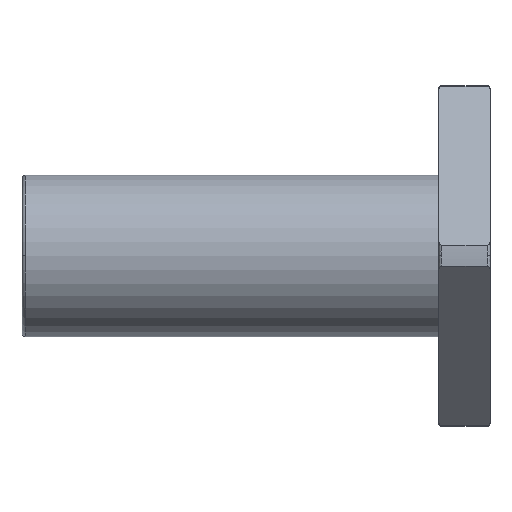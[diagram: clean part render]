
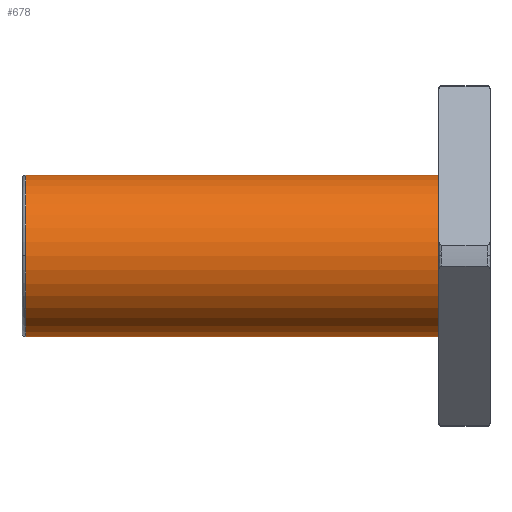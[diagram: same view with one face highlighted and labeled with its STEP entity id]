
A CAD part, top view. The second image highlights one B-rep face of the part: STEP entity #678.
In plain terms, the highlighted cylindrical face has radius 9.5 mm (diameter 19 mm), a partial arc.
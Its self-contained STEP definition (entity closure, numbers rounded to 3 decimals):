
#663 = PLANE('',#664);
#664 = AXIS2_PLACEMENT_3D('',#665,#666,#667);
#665 = CARTESIAN_POINT('',(-6.,14.6,0.));
#666 = DIRECTION('',(-1.,0.,0.));
#667 = DIRECTION('',(0.,-1.,0.));
#678 = ADVANCED_FACE('',(#679),#693,.T.);
#679 = FACE_BOUND('',#680,.T.);
#680 = EDGE_LOOP('',(#681,#716,#745,#774,#797));
#681 = ORIENTED_EDGE('',*,*,#682,.F.);
#682 = EDGE_CURVE('',#683,#685,#687,.T.);
#683 = VERTEX_POINT('',#684);
#684 = CARTESIAN_POINT('',(-54.55,9.5,0.));
#685 = VERTEX_POINT('',#686);
#686 = CARTESIAN_POINT('',(-6.,9.5,0.));
#687 = SURFACE_CURVE('',#688,(#692,#704),.PCURVE_S1.);
#688 = LINE('',#689,#690);
#689 = CARTESIAN_POINT('',(-30.275,9.5,0.));
#690 = VECTOR('',#691,1.);
#691 = DIRECTION('',(1.,0.,0.));
#692 = PCURVE('',#693,#698);
#693 = CYLINDRICAL_SURFACE('',#694,9.5);
#694 = AXIS2_PLACEMENT_3D('',#695,#696,#697);
#695 = CARTESIAN_POINT('',(-30.275,0.,0.));
#696 = DIRECTION('',(1.,0.,0.));
#697 = DIRECTION('',(-0.,1.,0.));
#698 = DEFINITIONAL_REPRESENTATION('',(#699),#703);
#699 = LINE('',#700,#701);
#700 = CARTESIAN_POINT('',(0.,0.));
#701 = VECTOR('',#702,1.);
#702 = DIRECTION('',(0.,1.));
#703 = ( GEOMETRIC_REPRESENTATION_CONTEXT(2) 
PARAMETRIC_REPRESENTATION_CONTEXT() REPRESENTATION_CONTEXT('2D SPACE',''
  ) );
#704 = PCURVE('',#705,#710);
#705 = CYLINDRICAL_SURFACE('',#706,9.5);
#706 = AXIS2_PLACEMENT_3D('',#707,#708,#709);
#707 = CARTESIAN_POINT('',(-30.275,0.,0.));
#708 = DIRECTION('',(1.,0.,0.));
#709 = DIRECTION('',(-0.,1.,0.));
#710 = DEFINITIONAL_REPRESENTATION('',(#711),#715);
#711 = LINE('',#712,#713);
#712 = CARTESIAN_POINT('',(6.283,0.));
#713 = VECTOR('',#714,1.);
#714 = DIRECTION('',(0.,1.));
#715 = ( GEOMETRIC_REPRESENTATION_CONTEXT(2) 
PARAMETRIC_REPRESENTATION_CONTEXT() REPRESENTATION_CONTEXT('2D SPACE',''
  ) );
#716 = ORIENTED_EDGE('',*,*,#717,.T.);
#717 = EDGE_CURVE('',#683,#718,#720,.T.);
#718 = VERTEX_POINT('',#719);
#719 = CARTESIAN_POINT('',(-54.55,0.,9.5));
#720 = SURFACE_CURVE('',#721,(#726,#733),.PCURVE_S1.);
#721 = CIRCLE('',#722,9.5);
#722 = AXIS2_PLACEMENT_3D('',#723,#724,#725);
#723 = CARTESIAN_POINT('',(-54.55,0.,0.));
#724 = DIRECTION('',(1.,0.,0.));
#725 = DIRECTION('',(-0.,1.,0.));
#726 = PCURVE('',#693,#727);
#727 = DEFINITIONAL_REPRESENTATION('',(#728),#732);
#728 = LINE('',#729,#730);
#729 = CARTESIAN_POINT('',(0.,-24.275));
#730 = VECTOR('',#731,1.);
#731 = DIRECTION('',(1.,0.));
#732 = ( GEOMETRIC_REPRESENTATION_CONTEXT(2) 
PARAMETRIC_REPRESENTATION_CONTEXT() REPRESENTATION_CONTEXT('2D SPACE',''
  ) );
#733 = PCURVE('',#734,#739);
#734 = TOROIDAL_SURFACE('',#735,9.05,0.45);
#735 = AXIS2_PLACEMENT_3D('',#736,#737,#738);
#736 = CARTESIAN_POINT('',(-54.55,0.,0.));
#737 = DIRECTION('',(1.,0.,0.));
#738 = DIRECTION('',(0.,0.,-1.));
#739 = DEFINITIONAL_REPRESENTATION('',(#740),#744);
#740 = LINE('',#741,#742);
#741 = CARTESIAN_POINT('',(1.571,6.283));
#742 = VECTOR('',#743,1.);
#743 = DIRECTION('',(1.,0.));
#744 = ( GEOMETRIC_REPRESENTATION_CONTEXT(2) 
PARAMETRIC_REPRESENTATION_CONTEXT() REPRESENTATION_CONTEXT('2D SPACE',''
  ) );
#745 = ORIENTED_EDGE('',*,*,#746,.T.);
#746 = EDGE_CURVE('',#718,#747,#749,.T.);
#747 = VERTEX_POINT('',#748);
#748 = CARTESIAN_POINT('',(-54.55,-9.5,0.));
#749 = SURFACE_CURVE('',#750,(#755,#762),.PCURVE_S1.);
#750 = CIRCLE('',#751,9.5);
#751 = AXIS2_PLACEMENT_3D('',#752,#753,#754);
#752 = CARTESIAN_POINT('',(-54.55,0.,0.));
#753 = DIRECTION('',(1.,0.,0.));
#754 = DIRECTION('',(-0.,1.,0.));
#755 = PCURVE('',#693,#756);
#756 = DEFINITIONAL_REPRESENTATION('',(#757),#761);
#757 = LINE('',#758,#759);
#758 = CARTESIAN_POINT('',(0.,-24.275));
#759 = VECTOR('',#760,1.);
#760 = DIRECTION('',(1.,0.));
#761 = ( GEOMETRIC_REPRESENTATION_CONTEXT(2) 
PARAMETRIC_REPRESENTATION_CONTEXT() REPRESENTATION_CONTEXT('2D SPACE',''
  ) );
#762 = PCURVE('',#763,#768);
#763 = TOROIDAL_SURFACE('',#764,9.05,0.45);
#764 = AXIS2_PLACEMENT_3D('',#765,#766,#767);
#765 = CARTESIAN_POINT('',(-54.55,0.,0.));
#766 = DIRECTION('',(1.,0.,0.));
#767 = DIRECTION('',(0.,0.,-1.));
#768 = DEFINITIONAL_REPRESENTATION('',(#769),#773);
#769 = LINE('',#770,#771);
#770 = CARTESIAN_POINT('',(1.571,6.283));
#771 = VECTOR('',#772,1.);
#772 = DIRECTION('',(1.,0.));
#773 = ( GEOMETRIC_REPRESENTATION_CONTEXT(2) 
PARAMETRIC_REPRESENTATION_CONTEXT() REPRESENTATION_CONTEXT('2D SPACE',''
  ) );
#774 = ORIENTED_EDGE('',*,*,#775,.F.);
#775 = EDGE_CURVE('',#776,#747,#778,.T.);
#776 = VERTEX_POINT('',#777);
#777 = CARTESIAN_POINT('',(-6.,-9.5,0.));
#778 = SURFACE_CURVE('',#779,(#783,#790),.PCURVE_S1.);
#779 = LINE('',#780,#781);
#780 = CARTESIAN_POINT('',(-30.275,-9.5,0.));
#781 = VECTOR('',#782,1.);
#782 = DIRECTION('',(-1.,-0.,-0.));
#783 = PCURVE('',#693,#784);
#784 = DEFINITIONAL_REPRESENTATION('',(#785),#789);
#785 = LINE('',#786,#787);
#786 = CARTESIAN_POINT('',(3.142,0.));
#787 = VECTOR('',#788,1.);
#788 = DIRECTION('',(0.,-1.));
#789 = ( GEOMETRIC_REPRESENTATION_CONTEXT(2) 
PARAMETRIC_REPRESENTATION_CONTEXT() REPRESENTATION_CONTEXT('2D SPACE',''
  ) );
#790 = PCURVE('',#705,#791);
#791 = DEFINITIONAL_REPRESENTATION('',(#792),#796);
#792 = LINE('',#793,#794);
#793 = CARTESIAN_POINT('',(3.142,0.));
#794 = VECTOR('',#795,1.);
#795 = DIRECTION('',(0.,-1.));
#796 = ( GEOMETRIC_REPRESENTATION_CONTEXT(2) 
PARAMETRIC_REPRESENTATION_CONTEXT() REPRESENTATION_CONTEXT('2D SPACE',''
  ) );
#797 = ORIENTED_EDGE('',*,*,#798,.F.);
#798 = EDGE_CURVE('',#685,#776,#799,.T.);
#799 = SURFACE_CURVE('',#800,(#805,#812),.PCURVE_S1.);
#800 = CIRCLE('',#801,9.5);
#801 = AXIS2_PLACEMENT_3D('',#802,#803,#804);
#802 = CARTESIAN_POINT('',(-6.,0.,0.));
#803 = DIRECTION('',(1.,0.,0.));
#804 = DIRECTION('',(-0.,1.,0.));
#805 = PCURVE('',#693,#806);
#806 = DEFINITIONAL_REPRESENTATION('',(#807),#811);
#807 = LINE('',#808,#809);
#808 = CARTESIAN_POINT('',(0.,24.275));
#809 = VECTOR('',#810,1.);
#810 = DIRECTION('',(1.,0.));
#811 = ( GEOMETRIC_REPRESENTATION_CONTEXT(2) 
PARAMETRIC_REPRESENTATION_CONTEXT() REPRESENTATION_CONTEXT('2D SPACE',''
  ) );
#812 = PCURVE('',#663,#813);
#813 = DEFINITIONAL_REPRESENTATION('',(#814),#822);
#814 = ( BOUNDED_CURVE() B_SPLINE_CURVE(2,(#815,#816,#817,#818,#819,#820
,#821),.UNSPECIFIED.,.T.,.F.) B_SPLINE_CURVE_WITH_KNOTS((1,2,2,2,2,1),(
    -2.094,0.,2.094,4.189,6.283,
8.378),.UNSPECIFIED.) CURVE() GEOMETRIC_REPRESENTATION_ITEM() 
RATIONAL_B_SPLINE_CURVE((1.,0.5,1.,0.5,1.,0.5,1.)) REPRESENTATION_ITEM(
  '') );
#815 = CARTESIAN_POINT('',(5.1,0.));
#816 = CARTESIAN_POINT('',(5.1,16.454));
#817 = CARTESIAN_POINT('',(19.35,8.227));
#818 = CARTESIAN_POINT('',(33.6,0.));
#819 = CARTESIAN_POINT('',(19.35,-8.227));
#820 = CARTESIAN_POINT('',(5.1,-16.454));
#821 = CARTESIAN_POINT('',(5.1,0.));
#822 = ( GEOMETRIC_REPRESENTATION_CONTEXT(2) 
PARAMETRIC_REPRESENTATION_CONTEXT() REPRESENTATION_CONTEXT('2D SPACE',''
  ) );
